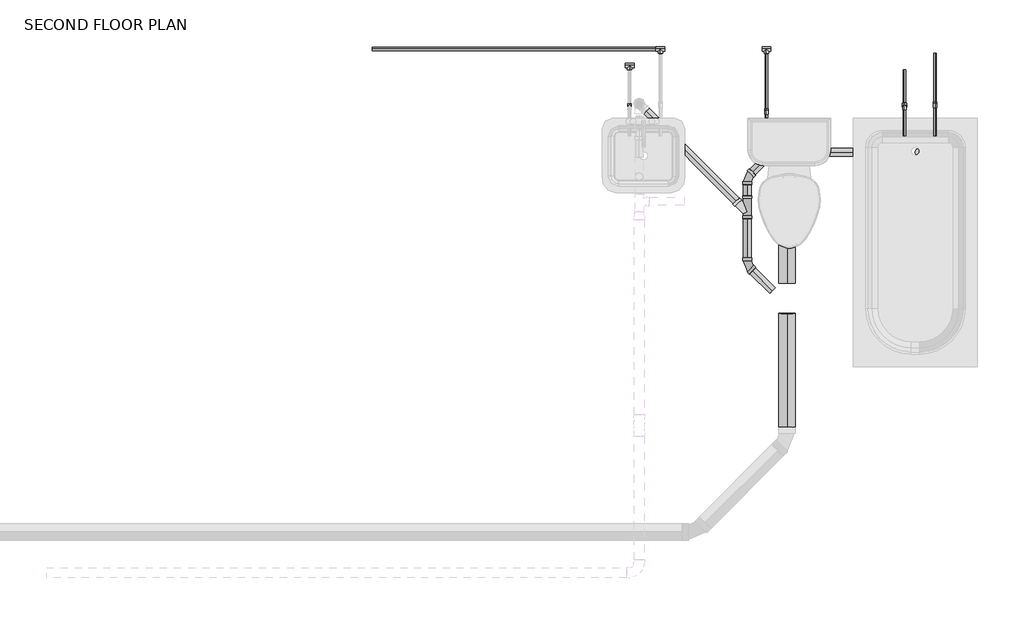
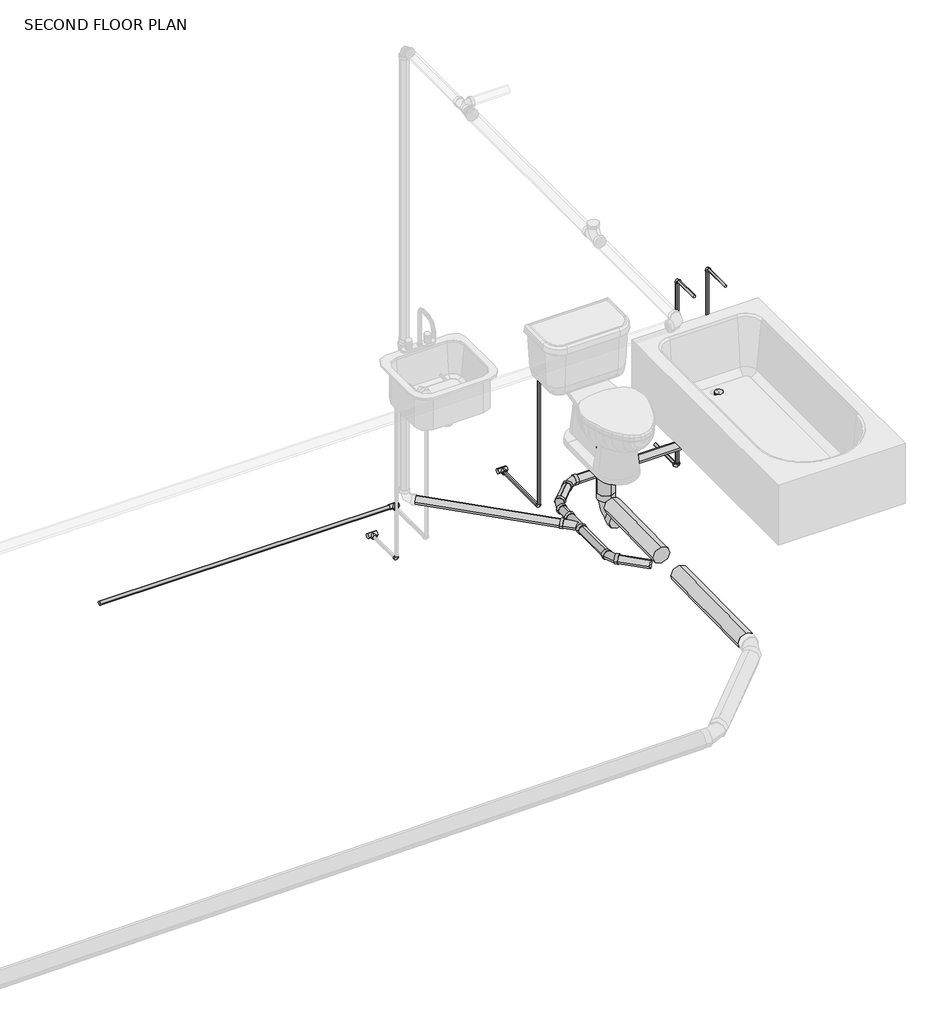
# One storey, part 2 of 2: 20 pipe segments, 19 pipe fittings.
"""IFC4 building model written with IfcOpenShell, lengths in millimetres."""

from ifc_helpers import new_model, si_unit, point, frame, frame_2d, origin, place, context, project, spatial, circle_curve, trimmed, segment, composite_curve, outline, extrude, transform, mapped, element, save
from components import bend_pvc_sch_40_dwv_standard_9345205b, bend_pvc_sch_40_dwv_standard_9b9136b8, bend_pvc_sch_40_dwv_standard_7ca662e2, bend_pvc_sch_40_dwv_standard_d9dd063d, ges_wye_45_deg_reducing_pvc_sch_40_dwv_standard_6e5b498b, pipe_elbow_copper_k_aad62f2d, pipe_elbow_copper_k_c3aa8096, pipe_elbow_copper_k_c2a1ca6f, pipe_elbow_copper_k_17cc7089, pipe_elbow_copper_k_78ec5512, pipe_tee_copper_k_ee363fbf, pipe_transition_copper_k_859ff352, pipe_transition_copper_k_7620e501, pipe_transition_copper_k_d23cabe6, pipe_transition_copper_k_f6ef8e9f

model = new_model("IFC4")

# Units and contexts
model_context = context("Model", 3, world=origin())
ifc_project = project(units=[si_unit("LENGTHUNIT", "METRE", prefix="MILLI")], contexts=[model_context])

# Site, building, storey
site = spatial("IfcSite", under=ifc_project)
building = spatial("IfcBuilding", under=site)
storey = spatial("IfcBuildingStorey", under=building, Name="SECOND FLOOR PLAN", Elevation=2844.8)

# Pipe fittings
placement = place(None, origin())
bend_pvc_sch_40_dwv_standard_shape = bend_pvc_sch_40_dwv_standard_9345205b(model_context)
element("IfcPipeFitting", 1, ObjectType="Bend - PVC - Sch 40 - DWV : Standard", at=placement, inside=storey, context=model_context, shape_type="MappedRepresentation", body=[
    mapped(bend_pvc_sch_40_dwv_standard_shape, transform((18605.9103501, 9245.6984124, 2557.1750647), x_axis=(0.0, 0.9999457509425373, 0.010416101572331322), y_axis=(0.0, -0.010416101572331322, 0.9999457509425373), z_axis=(1.0, 0.0, 0.0))),
])
bend_pvc_sch_40_dwv_standard_2_shape = bend_pvc_sch_40_dwv_standard_9b9136b8(model_context)
element("IfcPipeFitting", 2, ObjectType="Bend - PVC - Sch 40 - DWV : Standard", at=placement, inside=storey, context=model_context, shape_type="MappedRepresentation", body=[
    mapped(bend_pvc_sch_40_dwv_standard_2_shape, transform((18514.5371561, 9472.1531156, 2624.2657564), x_axis=(-0.9999500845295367, 0.0, -0.009991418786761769), y_axis=(4.735117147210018e-05, -0.9999887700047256, -0.004738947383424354), z_axis=(-0.009991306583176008, -0.004739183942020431, 0.9999388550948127))),
])
bend_pvc_sch_40_dwv_standard_3_shape = bend_pvc_sch_40_dwv_standard_7ca662e2(model_context)
element("IfcPipeFitting", 3, ObjectType="Bend - PVC - Sch 40 - DWV : Standard", at=placement, inside=storey, context=model_context, shape_type="MappedRepresentation", body=[
    mapped(bend_pvc_sch_40_dwv_standard_3_shape, transform((18361.657726, 9319.2736855, 2622.0057006), x_axis=(-0.7070671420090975, -0.7070671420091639, -0.010588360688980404), y_axis=(0.7071321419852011, -0.707068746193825, -0.0042334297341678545), z_axis=(-0.004493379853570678, -0.010480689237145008, 0.9999349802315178))),
])
bend_pvc_sch_40_dwv_standard_4_shape = bend_pvc_sch_40_dwv_standard_d9dd063d(model_context)
element("IfcPipeFitting", 4, ObjectType="Bend - PVC - Sch 40 - DWV : Standard", at=placement, inside=storey, context=model_context, shape_type="MappedRepresentation", body=[
    mapped(bend_pvc_sch_40_dwv_standard_4_shape, transform((18361.657726, 8777.6486412, 2616.3287278), x_axis=(0.0, -0.9999450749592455, -0.01048079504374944), y_axis=(0.9999979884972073, -2.102177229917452e-05, 0.0020056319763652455), z_axis=(-0.0020057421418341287, -0.010480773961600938, 0.9999430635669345))),
])
ges_wye_45_deg_reducing_pvc_sch_40_dwv_standard_shape = ges_wye_45_deg_reducing_pvc_sch_40_dwv_standard_6e5b498b(model_context)
element("IfcPipeFitting", 5, ObjectType="GES Wye 45 Deg Reducing - PVC - Sch 40 - DWV : Standard", at=placement, inside=storey, context=model_context, shape_type="MappedRepresentation", body=[
    mapped(ges_wye_45_deg_reducing_pvc_sch_40_dwv_standard_shape, transform((18361.657726, 9105.9742996, 2619.7700307), x_axis=(0.0, 0.9999450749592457, 0.010480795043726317), y_axis=(0.9999992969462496, 1.2428062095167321e-05, -0.0011857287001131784), z_axis=(-0.0011857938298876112, 0.010480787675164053, -0.9999443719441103))),
])
pipe_elbow_copper_k_shape = pipe_elbow_copper_k_aad62f2d(model_context)
element("IfcPipeFitting", 6, ObjectType="Pipe Elbow : Copper- K", at=placement, inside=storey, context=model_context, shape_type="MappedRepresentation", body=[
    mapped(pipe_elbow_copper_k_shape, transform((19325.6297147, 9751.2226376, 3454.4), x_axis=(0.0, 0.0, 1.0), y_axis=(0.0, -1.0, 0.0), z_axis=(1.0, 0.0, 0.0))),
])
element("IfcPipeFitting", 7, ObjectType="Pipe Elbow : Copper- K", at=placement, inside=storey, context=model_context, shape_type="MappedRepresentation", body=[
    mapped(pipe_elbow_copper_k_shape, transform((19514.0804305, 9764.0381796, 3454.4), x_axis=(0.0, 0.0, 1.0), y_axis=(0.0, -1.0, 0.0), z_axis=(1.0, 0.0, 0.0))),
])
element("IfcPipeFitting", 8, ObjectType="Pipe Elbow : Copper- K", at=placement, inside=storey, context=model_context, shape_type="MappedRepresentation", body=[
    mapped(pipe_elbow_copper_k_shape, transform((18478.6340107, 9723.3930057, 3454.4), x_axis=(0.0, 0.0, 1.0), y_axis=(0.0, -1.0, 0.0), z_axis=(1.0, 0.0, 0.0))),
])
pipe_elbow_copper_k_2_shape = pipe_elbow_copper_k_c3aa8096(model_context)
element("IfcPipeFitting", 9, ObjectType="Pipe Elbow : Copper- K", at=placement, inside=storey, context=model_context, shape_type="MappedRepresentation", body=[
    mapped(pipe_elbow_copper_k_2_shape, transform((19325.6297147, 9751.2226376, 2271.8117188), x_axis=(0.0, -0.9999999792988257, -0.00020347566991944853), y_axis=(0.0, -0.00020347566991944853, 0.9999999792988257), z_axis=(-1.0, 0.0, 0.0))),
])
pipe_elbow_copper_k_3_shape = pipe_elbow_copper_k_c2a1ca6f(model_context)
element("IfcPipeFitting", 10, ObjectType="Pipe Elbow : Copper- K", at=placement, inside=storey, context=model_context, shape_type="MappedRepresentation", body=[
    mapped(pipe_elbow_copper_k_3_shape, transform((19514.0804305, 9764.0381796, 2328.06875), x_axis=(0.0, -0.9999999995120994, -3.1237817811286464e-05), y_axis=(0.0, -3.1237817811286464e-05, 0.9999999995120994), z_axis=(-1.0, 0.0, 0.0))),
])
pipe_elbow_copper_k_4_shape = pipe_elbow_copper_k_17cc7089(model_context)
element("IfcPipeFitting", 11, ObjectType="Pipe Elbow : Copper- K", at=placement, inside=storey, context=model_context, shape_type="MappedRepresentation", body=[
    mapped(pipe_elbow_copper_k_4_shape, transform((18478.6340107, 9723.3930057, 2328.0686805), x_axis=(0.0, 0.0, -1.0), y_axis=(0.0, 1.0, 0.0), z_axis=(1.0, 0.0, 0.0))),
])
pipe_elbow_copper_k_5_shape = pipe_elbow_copper_k_78ec5512(model_context)
element("IfcPipeFitting", 12, ObjectType="Pipe Elbow : Copper- K", at=placement, inside=storey, context=model_context, shape_type="MappedRepresentation", body=[
    mapped(pipe_elbow_copper_k_5_shape, transform((17639.2645251, 9751.2226376, 2271.8115718), x_axis=(0.0, 0.0, -1.0), y_axis=(0.0, 1.0, 0.0), z_axis=(1.0, 0.0, 0.0))),
])
pipe_tee_copper_k_shape = pipe_tee_copper_k_ee363fbf(model_context)
element("IfcPipeFitting", 13, ObjectType="Pipe Tee : Copper- K", at=placement, inside=storey, context=model_context, shape_type="MappedRepresentation", body=[
    mapped(pipe_tee_copper_k_shape, transform((18478.6340107, 10106.9381796, 2328.0806516), x_axis=(-1.0, 0.0, 0.0), y_axis=(0.0, 0.99999999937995, 3.521505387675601e-05), z_axis=(0.0, 3.521505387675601e-05, -0.99999999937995))),
])
element("IfcPipeFitting", 14, ObjectType="Pipe Tee : Copper- K", at=placement, inside=storey, context=model_context, shape_type="MappedRepresentation", body=[
    mapped(pipe_tee_copper_k_shape, transform((17827.7152409, 10106.9381796, 2328.0806516), x_axis=(-1.0, 0.0, 0.0), y_axis=(0.0, 0.99999999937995, 3.521505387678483e-05), z_axis=(0.0, 3.521505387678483e-05, -0.99999999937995))),
])
element("IfcPipeFitting", 15, ObjectType="Pipe Tee : Copper- K", at=placement, inside=storey, context=model_context, shape_type="MappedRepresentation", body=[
    mapped(pipe_tee_copper_k_shape, transform((17639.2645251, 10005.2226376, 2271.8592023), x_axis=(-1.0, 0.0, 0.0), y_axis=(0.0, 0.9999999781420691, 0.00020908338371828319), z_axis=(0.0, 0.00020908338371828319, -0.9999999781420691))),
])
pipe_transition_copper_k_shape = pipe_transition_copper_k_859ff352(model_context)
element("IfcPipeFitting", 16, ObjectType="Pipe Transition : Copper- K", at=placement, inside=storey, context=model_context, shape_type="MappedRepresentation", body=[
    mapped(pipe_transition_copper_k_shape, transform((19325.6297147, 9771.8643368, 2271.8159188), x_axis=(0.0, 0.9999999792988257, 0.00020347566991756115), y_axis=(-1.0, 0.0, 0.0), z_axis=(0.0, -0.00020347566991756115, 0.9999999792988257))),
])
pipe_transition_copper_k_2_shape = pipe_transition_copper_k_7620e501(model_context)
element("IfcPipeFitting", 17, ObjectType="Pipe Transition : Copper- K", at=placement, inside=storey, context=model_context, shape_type="MappedRepresentation", body=[
    mapped(pipe_transition_copper_k_2_shape, transform((19325.6297147, 9751.2226376, 2292.4534184), x_axis=(0.0, 0.0, 1.0), y_axis=(1.0, 0.0, 0.0), z_axis=(0.0, 1.0, 0.0))),
])
pipe_transition_copper_k_3_shape = pipe_transition_copper_k_d23cabe6(model_context)
element("IfcPipeFitting", 18, ObjectType="Pipe Transition : Copper- K", at=placement, inside=storey, context=model_context, shape_type="MappedRepresentation", body=[
    mapped(pipe_transition_copper_k_3_shape, transform((18478.6340107, 10079.9506796, 2328.0797012), x_axis=(0.0, -0.99999999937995, -3.521505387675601e-05), y_axis=(1.0, 0.0, 0.0), z_axis=(0.0, -3.521505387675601e-05, 0.99999999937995))),
])
pipe_transition_copper_k_4_shape = pipe_transition_copper_k_f6ef8e9f(model_context)
element("IfcPipeFitting", 19, ObjectType="Pipe Transition : Copper- K", at=placement, inside=storey, context=model_context, shape_type="MappedRepresentation", body=[
    mapped(pipe_transition_copper_k_4_shape, transform((17827.7152409, 10079.9506796, 2328.0797012), x_axis=(0.0, -0.99999999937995, -3.521505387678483e-05), y_axis=(1.0, 0.0, 0.0), z_axis=(0.0, -3.521505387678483e-05, 0.99999999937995))),
])

# Pipe segments
element("IfcPipeSegment", 20, ObjectType="Cast Iron - SAN/STORM", at=placement, inside=storey, context=model_context, shape_type="SweptSolid", body=[
    extrude(outline(composite_curve([segment(trimmed(circle_curve(frame_2d((0.0, 50.403125)), 50.403125), [point((-50.403125, 50.4031249))], [point((-1e-07, 100.80625))], False, "CARTESIAN"), True, "CONTINUOUS"), segment(trimmed(circle_curve(frame_2d((0.0, 50.403125)), 50.403125), [point((-1e-07, 100.80625))], [point((50.403125, 50.4031252))], False, "CARTESIAN"), True, "CONTINUOUS"), segment(trimmed(circle_curve(frame_2d((0.0, 50.403125)), 50.403125), [point((50.403125, 50.4031252))], [point((2e-07, 0.0))], False, "CARTESIAN"), True, "CONTINUOUS"), segment(trimmed(circle_curve(frame_2d((0.0, 50.403125)), 50.403125), [point((2e-07, 0.0))], [point((-50.403125, 50.4031249))], False, "CARTESIAN"), True, "CONTINUOUS")], self_intersect=False)), frame((18605.9103501, 9195.2952874, 2673.0766428), z_axis=(0.00010687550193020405, 2.7340952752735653e-05, 0.9999999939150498), x_axis=(0.9999999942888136, -2.9220785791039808e-09, -0.00010687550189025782)), (0.0, 0.0, 1.0), 277.1842663),
])
element("IfcPipeSegment", 21, ObjectType="Cast Iron - SAN/STORM", at=placement, inside=storey, context=model_context, shape_type="SweptSolid", body=[
    extrude(outline(composite_curve([segment(trimmed(circle_curve(frame_2d((0.0, 24.209375)), 24.209375), [point((-24.209375, 24.209375))], [point((0.0, 48.41875))], False, "CARTESIAN"), True, "CONTINUOUS"), segment(trimmed(circle_curve(frame_2d((0.0, 24.209375)), 24.209375), [point((0.0, 48.41875))], [point((24.209375, 24.209375))], False, "CARTESIAN"), True, "CONTINUOUS"), segment(trimmed(circle_curve(frame_2d((0.0, 24.209375)), 24.209375), [point((24.209375, 24.209375))], [point((0.0, 0.0))], False, "CARTESIAN"), True, "CONTINUOUS"), segment(trimmed(circle_curve(frame_2d((0.0, 24.209375)), 24.209375), [point((0.0, 0.0))], [point((-24.209375, 24.209375))], False, "CARTESIAN"), True, "CONTINUOUS")], self_intersect=False)), frame((19414.2555318, 9447.9395896, 2569.1975095), z_axis=(0.0, -5.79161234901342e-05, 0.9999999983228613), x_axis=(1.0, 0.0, 0.0)), (0.0, 0.0, 1.0), 311.9495416),
])
element("IfcPipeSegment", 22, ObjectType="Cast Iron - SAN/STORM", at=placement, inside=storey, context=model_context, shape_type="SweptSolid", body=[
    extrude(outline(composite_curve([segment(trimmed(circle_curve(frame_2d((9472.1531156, 2624.7256095)), 24.209375), [point((9496.3624906, 2624.7256095))], [point((9472.1531156, 2600.5162345))], False, "CARTESIAN"), True, "CONTINUOUS"), segment(trimmed(circle_curve(frame_2d((9472.1531156, 2624.7256095)), 24.209375), [point((9472.1531156, 2600.5162345))], [point((9447.9437406, 2624.7256095))], False, "CARTESIAN"), True, "CONTINUOUS"), segment(trimmed(circle_curve(frame_2d((9472.1531156, 2624.7256095)), 24.209375), [point((9447.9437406, 2624.7256095))], [point((9472.1531156, 2648.9349845))], False, "CARTESIAN"), True, "CONTINUOUS"), segment(trimmed(circle_curve(frame_2d((9472.1531156, 2624.7256095)), 24.209375), [point((9472.1531156, 2648.9349845))], [point((9496.3624906, 2624.7256095))], False, "CARTESIAN"), True, "CONTINUOUS")], self_intersect=False)), frame((18560.5596587, 0.0, 0.0), z_axis=(1.0, 0.0, 0.0), x_axis=(0.0, 1.0, 0.0)), (0.0, 0.0, 1.0), 736.0938731),
])
element("IfcPipeSegment", 23, ObjectType="Cast Iron - SAN/STORM", at=placement, inside=storey, context=model_context, shape_type="SweptSolid", body=[
    extrude(outline(composite_curve([segment(trimmed(circle_curve(frame_2d((0.0, -24.209375)), 24.209375), [point((-24.2080618, -23.9572213))], [point((0.2521536, -0.0013132))], False, "CARTESIAN"), True, "CONTINUOUS"), segment(trimmed(circle_curve(frame_2d((0.0, -24.209375)), 24.209375), [point((0.2521536, -0.0013132))], [point((24.2080618, -24.4615286))], False, "CARTESIAN"), True, "CONTINUOUS"), segment(trimmed(circle_curve(frame_2d((0.0, -24.209375)), 24.209375), [point((24.2080618, -24.4615286))], [point((-0.2521536, -48.4174368))], False, "CARTESIAN"), True, "CONTINUOUS"), segment(trimmed(circle_curve(frame_2d((0.0, -24.209375)), 24.209375), [point((-0.2521536, -48.4174368))], [point((-24.2080618, -23.9572213))], False, "CARTESIAN"), True, "CONTINUOUS")], self_intersect=False)), frame((18394.2003498, 9352.1729084, 2598.2862793), z_axis=(0.7070684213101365, 0.7070684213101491, 0.010416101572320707), x_axis=(0.7071451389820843, -0.7069917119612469, -0.010414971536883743)), (0.0, 0.0, 1.0), 124.1663762),
])
element("IfcPipeSegment", 24, ObjectType="Cast Iron - SAN/STORM", at=placement, inside=storey, context=model_context, shape_type="SweptSolid", body=[
    extrude(outline(composite_curve([segment(trimmed(circle_curve(frame_2d((0.0, -24.209375)), 24.209375), [point((-24.209375, -24.209375))], [point((0.0, 0.0))], False, "CARTESIAN"), True, "CONTINUOUS"), segment(trimmed(circle_curve(frame_2d((0.0, -24.209375)), 24.209375), [point((0.0, 0.0))], [point((24.209375, -24.209375))], False, "CARTESIAN"), True, "CONTINUOUS"), segment(trimmed(circle_curve(frame_2d((0.0, -24.209375)), 24.209375), [point((24.209375, -24.209375))], [point((0.0, -48.41875))], False, "CARTESIAN"), True, "CONTINUOUS"), segment(trimmed(circle_curve(frame_2d((0.0, -24.209375)), 24.209375), [point((0.0, -48.41875))], [point((-24.209375, -24.209375))], False, "CARTESIAN"), True, "CONTINUOUS")], self_intersect=False)), frame((18361.657726, 8823.9246468, 2592.603059), z_axis=(0.0, 0.9999450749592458, 0.010480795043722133), x_axis=(1.0, 0.0, 0.0)), (0.0, 0.0, 1.0), 242.0368739),
])
element("IfcPipeSegment", 25, ObjectType="Cast Iron - SAN/STORM", at=placement, inside=storey, context=model_context, shape_type="SweptSolid", body=[
    extrude(outline(composite_curve([segment(trimmed(circle_curve(frame_2d((0.0, 24.209375)), 24.209375), [point((24.2085512, 24.4090915))], [point((0.1997166, 0.0008239))], False, "CARTESIAN"), True, "CONTINUOUS"), segment(trimmed(circle_curve(frame_2d((0.0, 24.209375)), 24.209375), [point((0.1997166, 0.0008239))], [point((-24.2085512, 24.0096584))], False, "CARTESIAN"), True, "CONTINUOUS"), segment(trimmed(circle_curve(frame_2d((0.0, 24.209375)), 24.209375), [point((-24.2085512, 24.0096584))], [point((-0.1997166, 48.4179262))], False, "CARTESIAN"), True, "CONTINUOUS"), segment(trimmed(circle_curve(frame_2d((0.0, 24.209375)), 24.209375), [point((-0.1997166, 48.4179262))], [point((24.2085512, 24.4090915))], False, "CARTESIAN"), True, "CONTINUOUS")], self_intersect=False)), frame((18293.4882896, 9173.8594017, 2644.7730868), z_axis=(-0.7070925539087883, 0.7070728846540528, 0.008249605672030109), x_axis=(0.7071210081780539, 0.7070444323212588, 0.00824927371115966)), (0.0, 0.0, 1.0), 780.4745075),
])
element("IfcPipeSegment", 26, ObjectType="Cast Iron - SAN/STORM", at=placement, inside=storey, context=model_context, shape_type="SweptSolid", body=[
    extrude(outline(composite_curve([segment(trimmed(circle_curve(frame_2d((0.0, 50.403125)), 50.403125), [point((50.403125, 50.403125))], [point((0.0, 0.0))], False, "CARTESIAN"), True, "CONTINUOUS"), segment(trimmed(circle_curve(frame_2d((0.0, 50.403125)), 50.403125), [point((0.0, 0.0))], [point((-50.403125, 50.403125))], False, "CARTESIAN"), True, "CONTINUOUS"), segment(trimmed(circle_curve(frame_2d((0.0, 50.403125)), 50.403125), [point((-50.403125, 50.403125))], [point((0.0, 100.80625))], False, "CARTESIAN"), True, "CONTINUOUS"), segment(trimmed(circle_curve(frame_2d((0.0, 50.403125)), 50.403125), [point((0.0, 100.80625))], [point((50.403125, 50.403125))], False, "CARTESIAN"), True, "CONTINUOUS")], self_intersect=False)), frame((18605.6344688, 8668.7048316, 2665.5170234), z_axis=(0.0, 0.9999457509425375, 0.010416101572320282), x_axis=(1.0, 0.0, 0.0)), (0.0, 0.0, 1.0), 508.4258409),
])
element("IfcPipeSegment", 27, ObjectType="Cast Iron - SAN/STORM", at=placement, inside=storey, context=model_context, shape_type="SweptSolid", body=[
    extrude(outline(composite_curve([segment(trimmed(circle_curve(frame_2d((0.0, -24.209375)), 24.209375), [point((-24.209375, -24.209375))], [point((0.0, 0.0))], False, "CARTESIAN"), True, "CONTINUOUS"), segment(trimmed(circle_curve(frame_2d((0.0, -24.209375)), 24.209375), [point((0.0, 0.0))], [point((24.209375, -24.209375))], False, "CARTESIAN"), True, "CONTINUOUS"), segment(trimmed(circle_curve(frame_2d((0.0, -24.209375)), 24.209375), [point((24.209375, -24.209375))], [point((0.0, -48.41875))], False, "CARTESIAN"), True, "CONTINUOUS"), segment(trimmed(circle_curve(frame_2d((0.0, -24.209375)), 24.209375), [point((0.0, -48.41875))], [point((-24.209375, -24.209375))], False, "CARTESIAN"), True, "CONTINUOUS")], self_intersect=False)), frame((18361.657726, 9206.7382497, 2596.6154702), z_axis=(0.0, 0.9999450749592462, 0.010480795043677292), x_axis=(1.0, 0.0, 0.0)), (0.0, 0.0, 1.0), 66.7705646),
])
element("IfcPipeSegment", 28, ObjectType="Cast Iron - SAN/STORM", at=placement, inside=storey, context=model_context, shape_type="SweptSolid", body=[
    extrude(outline(composite_curve([segment(trimmed(circle_curve(frame_2d((0.0, 24.209375)), 24.209375), [point((24.2089403, 24.3544588))], [point((0.1450838, 0.0004347))], False, "CARTESIAN"), True, "CONTINUOUS"), segment(trimmed(circle_curve(frame_2d((0.0, 24.209375)), 24.209375), [point((0.1450838, 0.0004347))], [point((-24.2089402, 24.0642911))], False, "CARTESIAN"), True, "CONTINUOUS"), segment(trimmed(circle_curve(frame_2d((0.0, 24.209375)), 24.209375), [point((-24.2089402, 24.0642911))], [point((-0.1450839, 48.4183152))], False, "CARTESIAN"), True, "CONTINUOUS"), segment(trimmed(circle_curve(frame_2d((0.0, 24.209375)), 24.209375), [point((-0.1450839, 48.4183152))], [point((24.2089403, 24.3544588))], False, "CARTESIAN"), True, "CONTINUOUS")], self_intersect=False)), frame((18515.8367393, 8623.2644484, 2639.2304868), z_axis=(-0.7070940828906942, 0.7070940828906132, 0.005992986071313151), x_axis=(0.7071194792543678, 0.7070686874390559, 0.005992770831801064)), (0.0, 0.0, 1.0), 172.0211673),
])
element("IfcPipeSegment", 29, ObjectType="Cast Iron - SAN/STORM", at=placement, inside=storey, context=model_context, shape_type="SweptSolid", body=[
    extrude(outline(composite_curve([segment(trimmed(circle_curve(frame_2d((0.0, 50.403125)), 50.403125), [point((50.403125, 50.403125))], [point((0.0, 0.0))], False, "CARTESIAN"), True, "CONTINUOUS"), segment(trimmed(circle_curve(frame_2d((0.0, 50.403125)), 50.403125), [point((0.0, 0.0))], [point((-50.403125, 50.403125))], False, "CARTESIAN"), True, "CONTINUOUS"), segment(trimmed(circle_curve(frame_2d((0.0, 50.403125)), 50.403125), [point((-50.403125, 50.403125))], [point((0.0, 100.8062499))], False, "CARTESIAN"), True, "CONTINUOUS"), segment(trimmed(circle_curve(frame_2d((0.0, 50.403125)), 50.403125), [point((0.0, 100.8062499))], [point((50.403125, 50.403125))], False, "CARTESIAN"), True, "CONTINUOUS")], self_intersect=False)), frame((18605.6344688, 7784.3694057, 2656.305196), z_axis=(0.0, 0.9999457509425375, 0.010416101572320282), x_axis=(1.0, 0.0, 0.0)), (0.0, 0.0, 1.0), 698.0181114),
])
element("IfcPipeSegment", 30, ObjectType="Copper", at=placement, inside=storey, context=model_context, shape_type="SweptSolid", body=[
    extrude(outline(composite_curve([segment(trimmed(circle_curve(frame_2d((0.0, -7.9375)), 7.9375), [point((0.0, 0.0))], [point((7.9375, -7.9375))], False, "CARTESIAN"), True, "CONTINUOUS"), segment(trimmed(circle_curve(frame_2d((0.0, -7.9375)), 7.9375), [point((7.9375, -7.9375))], [point((0.0, -15.875))], False, "CARTESIAN"), True, "CONTINUOUS"), segment(trimmed(circle_curve(frame_2d((0.0, -7.9375)), 7.9375), [point((0.0, -15.875))], [point((-7.9375, -7.9375))], False, "CARTESIAN"), True, "CONTINUOUS"), segment(trimmed(circle_curve(frame_2d((0.0, -7.9375)), 7.9375), [point((-7.9375, -7.9375))], [point((0.0, 0.0))], False, "CARTESIAN"), True, "CONTINUOUS")], self_intersect=False)), frame((19317.6922147, 9777.4205867, 2271.8170494), z_axis=(0.0, 0.9999999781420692, 0.00020908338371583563), x_axis=(0.0, 0.00020908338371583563, -0.9999999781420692)), (0.0, 0.0, 1.0), 201.6083053),
])
element("IfcPipeSegment", 31, ObjectType="Copper", at=placement, inside=storey, context=model_context, shape_type="SweptSolid", body=[
    extrude(outline(composite_curve([segment(trimmed(circle_curve(frame_2d((3454.4, 19325.6297147)), 7.9375), [point((3454.4, 19317.6922147))], [point((3446.4625, 19325.6297147))], False, "CARTESIAN"), True, "CONTINUOUS"), segment(trimmed(circle_curve(frame_2d((3454.4, 19325.6297147)), 7.9375), [point((3446.4625, 19325.6297147))], [point((3454.4, 19333.5672147))], False, "CARTESIAN"), True, "CONTINUOUS"), segment(trimmed(circle_curve(frame_2d((3454.4, 19325.6297147)), 7.9375), [point((3454.4, 19333.5672147))], [point((3462.3375, 19325.6297147))], False, "CARTESIAN"), True, "CONTINUOUS"), segment(trimmed(circle_curve(frame_2d((3454.4, 19325.6297147)), 7.9375), [point((3462.3375, 19325.6297147))], [point((3454.4, 19317.6922147))], False, "CARTESIAN"), True, "CONTINUOUS")], self_intersect=False)), frame((0.0, 9573.4226376, 0.0), z_axis=(0.0, 1.0, 0.0), x_axis=(0.0, 0.0, 1.0)), (0.0, 0.0, 1.0), 160.3375),
])
element("IfcPipeSegment", 32, ObjectType="Copper", at=placement, inside=storey, context=model_context, shape_type="SweptSolid", body=[
    extrude(outline(composite_curve([segment(trimmed(circle_curve(frame_2d((19325.6297147, 9751.2226376)), 7.9375), [point((19317.6922147, 9751.2226376))], [point((19325.6297147, 9759.1601376))], False, "CARTESIAN"), True, "CONTINUOUS"), segment(trimmed(circle_curve(frame_2d((19325.6297147, 9751.2226376)), 7.9375), [point((19325.6297147, 9759.1601376))], [point((19333.5672147, 9751.2226376))], False, "CARTESIAN"), True, "CONTINUOUS"), segment(trimmed(circle_curve(frame_2d((19325.6297147, 9751.2226376)), 7.9375), [point((19333.5672147, 9751.2226376))], [point((19325.6297147, 9743.2851376))], False, "CARTESIAN"), True, "CONTINUOUS"), segment(trimmed(circle_curve(frame_2d((19325.6297147, 9751.2226376)), 7.9375), [point((19325.6297147, 9743.2851376))], [point((19317.6922147, 9751.2226376))], False, "CARTESIAN"), True, "CONTINUOUS")], self_intersect=False)), frame((0.0, 0.0, 2298.0096684), z_axis=(0.0, 0.0, 1.0), x_axis=(1.0, 0.0, 0.0)), (0.0, 0.0, 1.0), 1138.9278316),
])
element("IfcPipeSegment", 33, ObjectType="Copper", at=placement, inside=storey, context=model_context, shape_type="SweptSolid", body=[
    extrude(outline(composite_curve([segment(trimmed(circle_curve(frame_2d((0.0, -7.9375)), 7.9375), [point((0.0, 0.0))], [point((7.9375, -7.9375))], False, "CARTESIAN"), True, "CONTINUOUS"), segment(trimmed(circle_curve(frame_2d((0.0, -7.9375)), 7.9375), [point((7.9375, -7.9375))], [point((0.0, -15.875))], False, "CARTESIAN"), True, "CONTINUOUS"), segment(trimmed(circle_curve(frame_2d((0.0, -7.9375)), 7.9375), [point((0.0, -15.875))], [point((-7.9375, -7.9375))], False, "CARTESIAN"), True, "CONTINUOUS"), segment(trimmed(circle_curve(frame_2d((0.0, -7.9375)), 7.9375), [point((-7.9375, -7.9375))], [point((0.0, 0.0))], False, "CARTESIAN"), True, "CONTINUOUS")], self_intersect=False)), frame((19506.1429305, 9781.5012251, 2328.0692955), z_axis=(0.0, 0.99999999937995, 3.521505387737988e-05), x_axis=(0.0, 3.521505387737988e-05, -0.99999999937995)), (0.0, 0.0, 1.0), 299.2432047),
])
element("IfcPipeSegment", 34, ObjectType="Copper", at=placement, inside=storey, context=model_context, shape_type="SweptSolid", body=[
    extrude(outline(composite_curve([segment(trimmed(circle_curve(frame_2d((3454.4, 19514.0804305)), 7.9375), [point((3454.4, 19506.1429305))], [point((3446.4625, 19514.0804305))], False, "CARTESIAN"), True, "CONTINUOUS"), segment(trimmed(circle_curve(frame_2d((3454.4, 19514.0804305)), 7.9375), [point((3446.4625, 19514.0804305))], [point((3454.4, 19522.0179305))], False, "CARTESIAN"), True, "CONTINUOUS"), segment(trimmed(circle_curve(frame_2d((3454.4, 19514.0804305)), 7.9375), [point((3454.4, 19522.0179305))], [point((3462.3375, 19514.0804305))], False, "CARTESIAN"), True, "CONTINUOUS"), segment(trimmed(circle_curve(frame_2d((3454.4, 19514.0804305)), 7.9375), [point((3462.3375, 19514.0804305))], [point((3454.4, 19506.1429305))], False, "CARTESIAN"), True, "CONTINUOUS")], self_intersect=False)), frame((0.0, 9573.4226376, 0.0), z_axis=(0.0, 1.0, 0.0), x_axis=(0.0, 0.0, 1.0)), (0.0, 0.0, 1.0), 173.153042),
])
element("IfcPipeSegment", 35, ObjectType="Copper", at=placement, inside=storey, context=model_context, shape_type="SweptSolid", body=[
    extrude(outline(composite_curve([segment(trimmed(circle_curve(frame_2d((19514.0804305, 9764.0381796)), 7.9375), [point((19506.1429305, 9764.0381796))], [point((19514.0804305, 9771.9756796))], False, "CARTESIAN"), True, "CONTINUOUS"), segment(trimmed(circle_curve(frame_2d((19514.0804305, 9764.0381796)), 7.9375), [point((19514.0804305, 9771.9756796))], [point((19522.0179305, 9764.0381796))], False, "CARTESIAN"), True, "CONTINUOUS"), segment(trimmed(circle_curve(frame_2d((19514.0804305, 9764.0381796)), 7.9375), [point((19522.0179305, 9764.0381796))], [point((19514.0804305, 9756.1006796))], False, "CARTESIAN"), True, "CONTINUOUS"), segment(trimmed(circle_curve(frame_2d((19514.0804305, 9764.0381796)), 7.9375), [point((19514.0804305, 9756.1006796))], [point((19506.1429305, 9764.0381796))], False, "CARTESIAN"), True, "CONTINUOUS")], self_intersect=False)), frame((0.0, 0.0, 2345.5317955), z_axis=(0.0, 0.0, 1.0), x_axis=(1.0, 0.0, 0.0)), (0.0, 0.0, 1.0), 1091.4057045),
])
element("IfcPipeSegment", 36, ObjectType="Copper", at=placement, inside=storey, context=model_context, shape_type="SweptSolid", body=[
    extrude(outline(composite_curve([segment(trimmed(circle_curve(frame_2d((0.0, -7.9375)), 7.9375), [point((0.0, 0.0))], [point((7.9375, -7.9375))], False, "CARTESIAN"), True, "CONTINUOUS"), segment(trimmed(circle_curve(frame_2d((0.0, -7.9375)), 7.9375), [point((7.9375, -7.9375))], [point((0.0, -15.875))], False, "CARTESIAN"), True, "CONTINUOUS"), segment(trimmed(circle_curve(frame_2d((0.0, -7.9375)), 7.9375), [point((0.0, -15.875))], [point((-7.9375, -7.9375))], False, "CARTESIAN"), True, "CONTINUOUS"), segment(trimmed(circle_curve(frame_2d((0.0, -7.9375)), 7.9375), [point((-7.9375, -7.9375))], [point((0.0, 0.0))], False, "CARTESIAN"), True, "CONTINUOUS")], self_intersect=False)), frame((18470.6965107, 9740.8561206, 2328.0692955), z_axis=(0.0, 0.99999999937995, 3.5215053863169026e-05), x_axis=(0.0, 3.5215053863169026e-05, -0.99999999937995)), (0.0, 0.0, 1.0), 333.5383091),
])
element("IfcPipeSegment", 37, ObjectType="Copper", at=placement, inside=storey, context=model_context, shape_type="SweptSolid", body=[
    extrude(outline(composite_curve([segment(trimmed(circle_curve(frame_2d((3454.4, 18478.6340107)), 7.9375), [point((3454.4, 18470.6965107))], [point((3446.4625, 18478.6340107))], False, "CARTESIAN"), True, "CONTINUOUS"), segment(trimmed(circle_curve(frame_2d((3454.4, 18478.6340107)), 7.9375), [point((3446.4625, 18478.6340107))], [point((3454.4, 18486.5715107))], False, "CARTESIAN"), True, "CONTINUOUS"), segment(trimmed(circle_curve(frame_2d((3454.4, 18478.6340107)), 7.9375), [point((3454.4, 18486.5715107))], [point((3462.3375, 18478.6340107))], False, "CARTESIAN"), True, "CONTINUOUS"), segment(trimmed(circle_curve(frame_2d((3454.4, 18478.6340107)), 7.9375), [point((3462.3375, 18478.6340107))], [point((3454.4, 18470.6965107))], False, "CARTESIAN"), True, "CONTINUOUS")], self_intersect=False)), frame((0.0, 9532.7774637, 0.0), z_axis=(0.0, 1.0, 0.0), x_axis=(0.0, 0.0, 1.0)), (0.0, 0.0, 1.0), 173.153042),
])
element("IfcPipeSegment", 38, ObjectType="Copper", at=placement, inside=storey, context=model_context, shape_type="SweptSolid", body=[
    extrude(outline(composite_curve([segment(trimmed(circle_curve(frame_2d((18478.6340107, 9723.3930057)), 7.9375), [point((18470.6965107, 9723.3930057))], [point((18478.6340107, 9731.3305057))], False, "CARTESIAN"), True, "CONTINUOUS"), segment(trimmed(circle_curve(frame_2d((18478.6340107, 9723.3930057)), 7.9375), [point((18478.6340107, 9731.3305057))], [point((18486.5715107, 9723.3930057))], False, "CARTESIAN"), True, "CONTINUOUS"), segment(trimmed(circle_curve(frame_2d((18478.6340107, 9723.3930057)), 7.9375), [point((18486.5715107, 9723.3930057))], [point((18478.6340107, 9715.4555057))], False, "CARTESIAN"), True, "CONTINUOUS"), segment(trimmed(circle_curve(frame_2d((18478.6340107, 9723.3930057)), 7.9375), [point((18478.6340107, 9715.4555057))], [point((18470.6965107, 9723.3930057))], False, "CARTESIAN"), True, "CONTINUOUS")], self_intersect=False)), frame((0.0, 0.0, 2345.5317955), z_axis=(0.0, 0.0, 1.0), x_axis=(1.0, 0.0, 0.0)), (0.0, 0.0, 1.0), 1091.4057045),
])
element("IfcPipeSegment", 39, ObjectType="Copper", at=placement, inside=storey, context=model_context, shape_type="SweptSolid", body=[
    extrude(outline(composite_curve([segment(trimmed(circle_curve(frame_2d((10106.9381796, 2328.0806516)), 11.1125), [point((10095.8256796, 2328.0806516))], [point((10106.9381796, 2339.1931516))], False, "CARTESIAN"), True, "CONTINUOUS"), segment(trimmed(circle_curve(frame_2d((10106.9381796, 2328.0806516)), 11.1125), [point((10106.9381796, 2339.1931516))], [point((10118.0506796, 2328.0806516))], False, "CARTESIAN"), True, "CONTINUOUS"), segment(trimmed(circle_curve(frame_2d((10106.9381796, 2328.0806516)), 11.1125), [point((10118.0506796, 2328.0806516))], [point((10106.9381796, 2316.9681516))], False, "CARTESIAN"), True, "CONTINUOUS"), segment(trimmed(circle_curve(frame_2d((10106.9381796, 2328.0806516)), 11.1125), [point((10106.9381796, 2316.9681516))], [point((10095.8256796, 2328.0806516))], False, "CARTESIAN"), True, "CONTINUOUS")], self_intersect=False)), frame((16060.345114, 0.0, 0.0), z_axis=(1.0, 0.0, 0.0), x_axis=(0.0, 1.0, 0.0)), (0.0, 0.0, 1.0), 1740.3826268),
])

save(model, "model.ifc")
